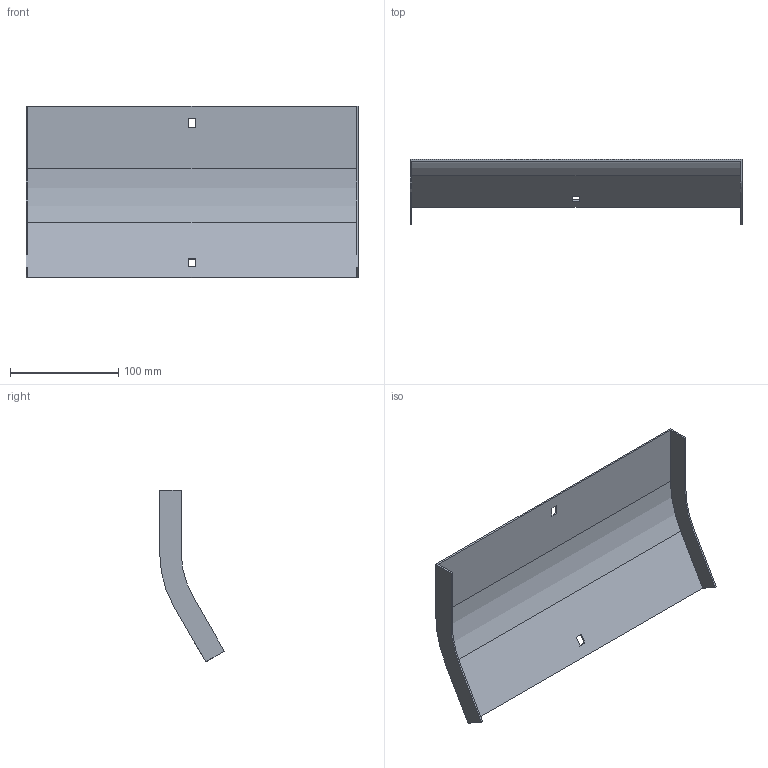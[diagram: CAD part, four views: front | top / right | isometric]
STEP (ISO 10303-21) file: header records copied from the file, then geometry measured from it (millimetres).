
FILE_DESCRIPTION (( 'STEP AP214' ), '1' );
FILE_NAME ('35G1D300.step', '2025-02-21T12:40:43', ( '' ), ( '' ), 'SwSTEP 2.0', 'SolidWorks 2023', '' );
FILE_SCHEMA (( 'AUTOMOTIVE_DESIGN' ));
Length unit declared in the file: millimetre
Products named in the file (1): 35G1D300
Bounding box: 307 x 59.87 x 158.79 mm (x, y, z)
Volume: 86507 mm3; surface area: 116944.3 mm2
Topology: 1 solids, 1 shells, 26 faces, 72 edges, 48 vertices
Faces by surface type: plane 22, cylinder 4
Entity records: 855 total; most frequent: CARTESIAN_POINT 147, ORIENTED_EDGE 144, DIRECTION 134, EDGE_CURVE 72, LINE 64, VECTOR 64, VERTEX_POINT 48, AXIS2_PLACEMENT_3D 35
